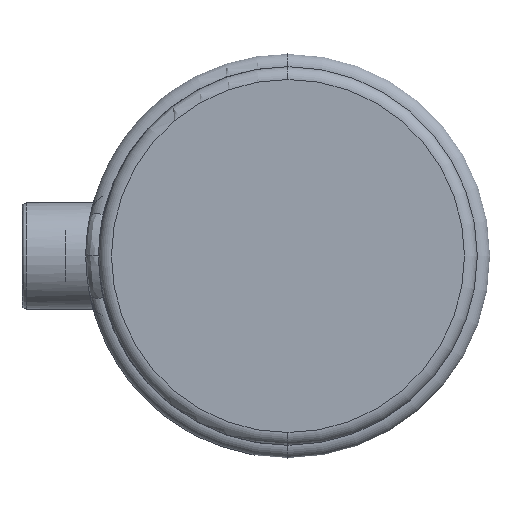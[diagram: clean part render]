
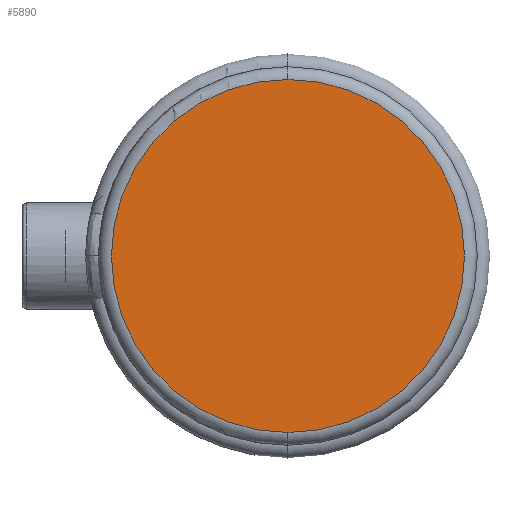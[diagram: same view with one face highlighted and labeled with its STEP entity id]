
A CAD part, left-side view. The second image highlights one B-rep face of the part: STEP entity #5890.
In plain terms, the highlighted planar face has unit normal (-1, 0, 0).
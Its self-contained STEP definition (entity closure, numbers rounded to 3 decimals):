
#511 = AXIS2_PLACEMENT_3D ( 'NONE', #3850, #4773, #1998 ) ;
#594 = EDGE_CURVE ( 'NONE', #4374, #2769, #4069, .T. ) ;
#824 = EDGE_LOOP ( 'NONE', ( #1700, #4312 ) ) ;
#1065 = PLANE ( 'NONE',  #511 ) ;
#1152 = CARTESIAN_POINT ( 'NONE',  ( 0., 0., 41.45 ) ) ;
#1700 = ORIENTED_EDGE ( 'NONE', *, *, #2122, .T. ) ;
#1998 = DIRECTION ( 'NONE',  ( 0., 0., 1. ) ) ;
#2122 = EDGE_CURVE ( 'NONE', #2769, #4374, #3923, .T. ) ;
#2359 = AXIS2_PLACEMENT_3D ( 'NONE', #2768, #5994, #3239 ) ;
#2768 = CARTESIAN_POINT ( 'NONE',  ( 0., 0., 0. ) ) ;
#2769 = VERTEX_POINT ( 'NONE', #1152 ) ;
#2885 = CARTESIAN_POINT ( 'NONE',  ( 0., 0., -41.45 ) ) ;
#3239 = DIRECTION ( 'NONE',  ( 0., 0., 1. ) ) ;
#3518 = FACE_OUTER_BOUND ( 'NONE', #824, .T. ) ;
#3850 = CARTESIAN_POINT ( 'NONE',  ( 0., 0., 0. ) ) ;
#3923 = CIRCLE ( 'NONE', #2359, 41.45 ) ;
#4069 = CIRCLE ( 'NONE', #4152, 41.45 ) ;
#4152 = AXIS2_PLACEMENT_3D ( 'NONE', #5310, #5799, #5569 ) ;
#4312 = ORIENTED_EDGE ( 'NONE', *, *, #594, .T. ) ;
#4374 = VERTEX_POINT ( 'NONE', #2885 ) ;
#4773 = DIRECTION ( 'NONE',  ( -1., 0., 0. ) ) ;
#5310 = CARTESIAN_POINT ( 'NONE',  ( 0., 0., 0. ) ) ;
#5569 = DIRECTION ( 'NONE',  ( 0., 0., 1. ) ) ;
#5799 = DIRECTION ( 'NONE',  ( -1., 0., 0. ) ) ;
#5890 = ADVANCED_FACE ( 'NONE', ( #3518 ), #1065, .T. ) ;
#5994 = DIRECTION ( 'NONE',  ( -1., 0., 0. ) ) ;
